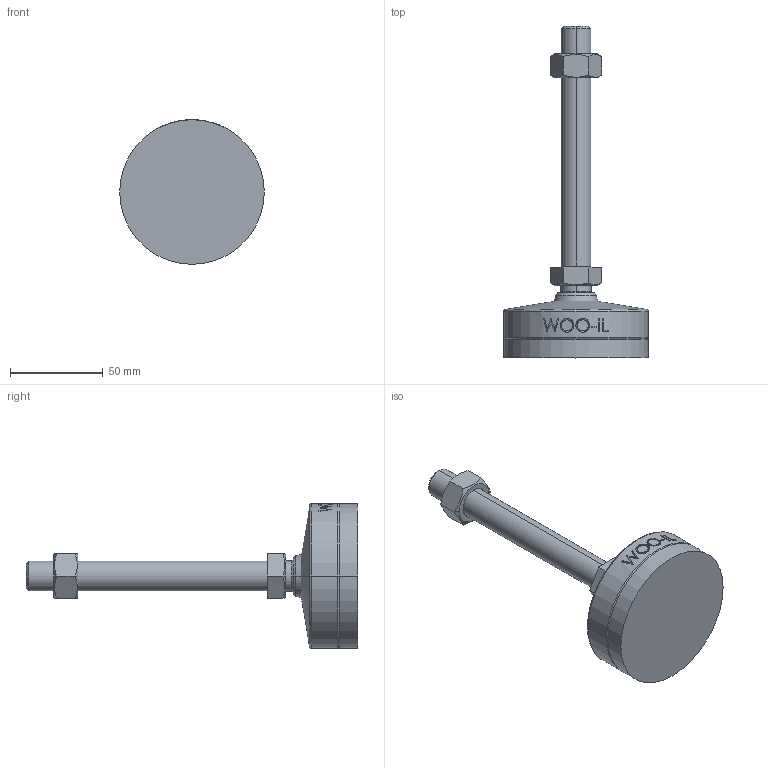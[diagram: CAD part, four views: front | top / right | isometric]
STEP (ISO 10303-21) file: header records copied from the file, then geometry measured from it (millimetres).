
FILE_DESCRIPTION (( 'STEP AP214' ), '1' );
FILE_NAME ('MFNR78-M16-130.step', '2021-02-22T09:07:40', ( '' ), ( '' ), 'SwSTEP 2.0', 'SolidWorks 2019', '' );
FILE_SCHEMA (( 'AUTOMOTIVE_DESIGN' ));
Length unit declared in the file: millimetre
Products named in the file (2): MFNR78-M16-130
Bounding box: 78 x 179 x 78 mm (x, y, z)
Volume: 171513.1 mm3; surface area: 26777.4 mm2
Topology: 2 solids, 2 shells, 105 faces, 245 edges, 156 vertices
Faces by surface type: plane 47, cone 18, cylinder 18, bspline 16, torus 4, sphere 2
Entity records: 4517 total; most frequent: CARTESIAN_POINT 2180, ORIENTED_EDGE 490, DIRECTION 437, EDGE_CURVE 245, AXIS2_PLACEMENT_3D 167, VERTEX_POINT 156, EDGE_LOOP 119, FACE_OUTER_BOUND 105
